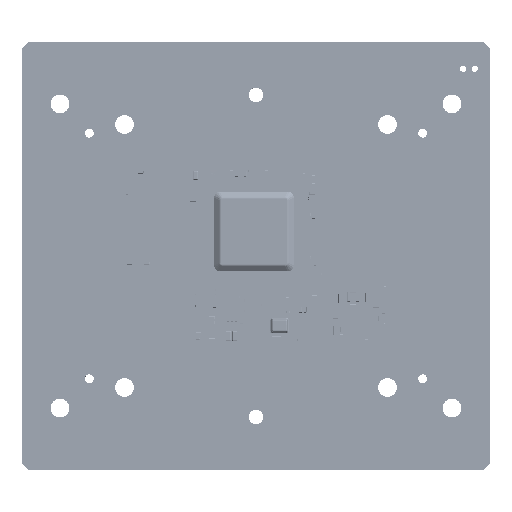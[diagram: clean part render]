
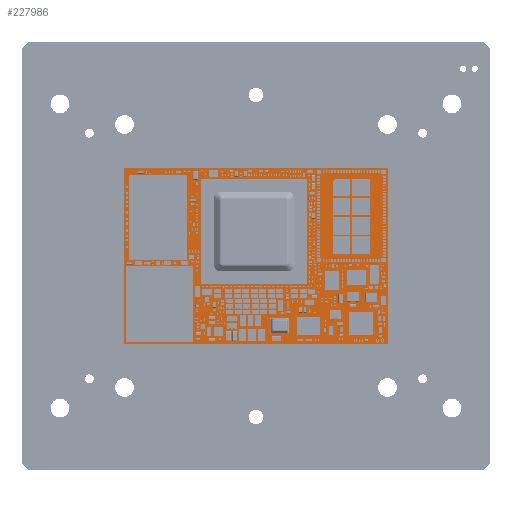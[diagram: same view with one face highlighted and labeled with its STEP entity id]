
A CAD part, top view. The second image highlights one B-rep face of the part: STEP entity #227986.
In plain terms, the highlighted planar face has unit normal (0, 0, 1).
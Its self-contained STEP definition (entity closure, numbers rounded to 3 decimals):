
#40827 = VECTOR ( 'NONE', #950677, 1000. ) ;
#80375 = CARTESIAN_POINT ( 'NONE',  ( 62.5, 51.5, 1.265 ) ) ;
#89532 = EDGE_CURVE ( 'NONE', #251099, #1111305, #787873, .T. ) ;
#158168 = EDGE_LOOP ( 'NONE', ( #846294, #330424, #383480, #175256 ) ) ;
#175256 = ORIENTED_EDGE ( 'NONE', *, *, #1076528, .T. ) ;
#183828 = LINE ( 'NONE', #1143870, #40827 ) ;
#201463 = VECTOR ( 'NONE', #396397, 1000. ) ;
#227986 = ADVANCED_FACE ( 'NONE', ( #692932 ), #991997, .T. ) ;
#237379 = DIRECTION ( 'NONE',  ( 0., 0., 1. ) ) ;
#251099 = VERTEX_POINT ( 'NONE', #80375 ) ;
#264673 = LINE ( 'NONE', #632840, #1212836 ) ;
#301649 = VERTEX_POINT ( 'NONE', #850842 ) ;
#330424 = ORIENTED_EDGE ( 'NONE', *, *, #917134, .T. ) ;
#383480 = ORIENTED_EDGE ( 'NONE', *, *, #89532, .T. ) ;
#396397 = DIRECTION ( 'NONE',  ( 0., -1., 0. ) ) ;
#406025 = DIRECTION ( 'NONE',  ( 1., 0., 0. ) ) ;
#565123 = LINE ( 'NONE', #864145, #201463 ) ;
#616728 = VECTOR ( 'NONE', #829223, 1000. ) ;
#630551 = EDGE_CURVE ( 'NONE', #659005, #301649, #183828, .T. ) ;
#632840 = CARTESIAN_POINT ( 'NONE',  ( 62.5, 21.5, 1.265 ) ) ;
#659005 = VERTEX_POINT ( 'NONE', #1063547 ) ;
#692932 = FACE_OUTER_BOUND ( 'NONE', #158168, .T. ) ;
#735701 = CARTESIAN_POINT ( 'NONE',  ( 62.5, 51.5, 1.265 ) ) ;
#740342 = CARTESIAN_POINT ( 'NONE',  ( 17.5, 51.5, 1.265 ) ) ;
#768868 = AXIS2_PLACEMENT_3D ( 'NONE', #804809, #237379, #406025 ) ;
#787873 = LINE ( 'NONE', #735701, #616728 ) ;
#804809 = CARTESIAN_POINT ( 'NONE',  ( 40., 36.5, 1.265 ) ) ;
#829223 = DIRECTION ( 'NONE',  ( -1., 0., 0. ) ) ;
#846294 = ORIENTED_EDGE ( 'NONE', *, *, #630551, .T. ) ;
#850842 = CARTESIAN_POINT ( 'NONE',  ( 62.5, 21.5, 1.265 ) ) ;
#864145 = CARTESIAN_POINT ( 'NONE',  ( 17.5, 51.5, 1.265 ) ) ;
#917134 = EDGE_CURVE ( 'NONE', #301649, #251099, #264673, .T. ) ;
#950677 = DIRECTION ( 'NONE',  ( 1., 0., 0. ) ) ;
#991997 = PLANE ( 'NONE',  #768868 ) ;
#1031629 = DIRECTION ( 'NONE',  ( 0., 1., 0. ) ) ;
#1063547 = CARTESIAN_POINT ( 'NONE',  ( 17.5, 21.5, 1.265 ) ) ;
#1076528 = EDGE_CURVE ( 'NONE', #1111305, #659005, #565123, .T. ) ;
#1111305 = VERTEX_POINT ( 'NONE', #740342 ) ;
#1143870 = CARTESIAN_POINT ( 'NONE',  ( 17.5, 21.5, 1.265 ) ) ;
#1212836 = VECTOR ( 'NONE', #1031629, 1000. ) ;
